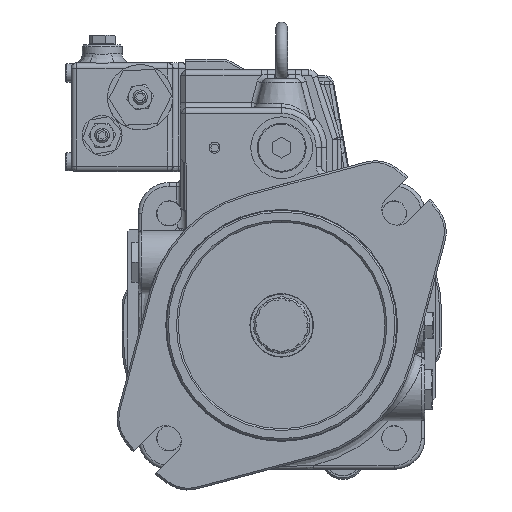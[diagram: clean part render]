
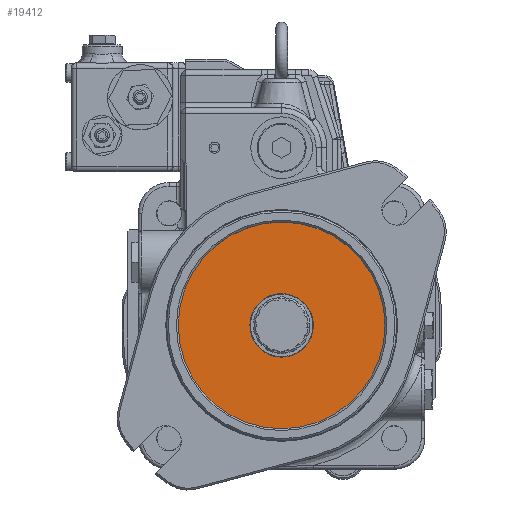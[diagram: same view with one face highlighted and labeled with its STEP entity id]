
A CAD part, top view. The second image highlights one B-rep face of the part: STEP entity #19412.
In plain terms, the highlighted planar face has unit normal (0, 0, 1).
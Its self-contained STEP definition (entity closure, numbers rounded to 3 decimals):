
#9491=CARTESIAN_POINT('',(54.338,6.143,308.2));
#9492=VERTEX_POINT('',#9491);
#9493=CARTESIAN_POINT('',(-2.662,6.143,308.2));
#9494=DIRECTION('',(0.0,0.0,1.0));
#9495=DIRECTION('',(-1.0,0.0,0.0));
#9496=AXIS2_PLACEMENT_3D('',#9493,#9494,#9495);
#9497=CIRCLE('',#9496,57.0);
#9498=EDGE_CURVE('',#9492,#9492,#9497,.T.);
#19393=CARTESIAN_POINT('',(-2.662,6.143,308.2));
#19394=DIRECTION('',(0.0,0.0,-1.0));
#19395=DIRECTION('',(-1.0,0.0,0.0));
#19396=AXIS2_PLACEMENT_3D('',#19393,#19394,#19395);
#19397=PLANE('',#19396);
#19398=ORIENTED_EDGE('',*,*,#9498,.T.);
#19399=EDGE_LOOP('',(#19398));
#19400=FACE_OUTER_BOUND('',#19399,.T.);
#19401=CARTESIAN_POINT('',(-16.505,-4.562,308.2));
#19402=VERTEX_POINT('',#19401);
#19403=CARTESIAN_POINT('',(-2.662,6.143,308.2));
#19404=DIRECTION('',(0.,0.,-1.));
#19405=DIRECTION('',(0.791,0.612,0.));
#19406=AXIS2_PLACEMENT_3D('',#19403,#19404,#19405);
#19407=CIRCLE('',#19406,17.5);
#19408=EDGE_CURVE('',#19402,#19402,#19407,.T.);
#19409=ORIENTED_EDGE('',*,*,#19408,.T.);
#19410=EDGE_LOOP('',(#19409));
#19411=FACE_BOUND('',#19410,.T.);
#19412=ADVANCED_FACE('',(#19400,#19411),#19397,.F.);
